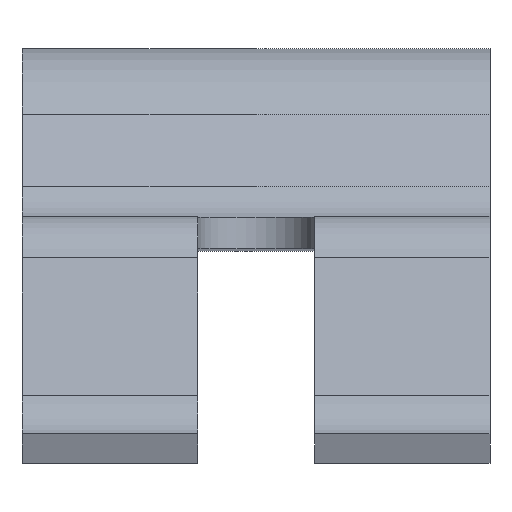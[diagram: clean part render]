
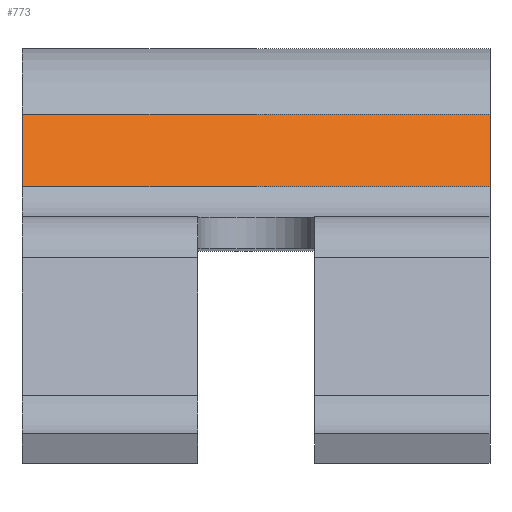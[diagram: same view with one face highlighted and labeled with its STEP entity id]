
A CAD part, top view. The second image highlights one B-rep face of the part: STEP entity #773.
In plain terms, the highlighted planar face has unit normal (0, 0.433, 0.901).
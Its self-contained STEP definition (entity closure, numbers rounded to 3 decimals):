
#22 = FACE_OUTER_BOUND ( 'NONE', #870, .T. ) ;
#28 = DIRECTION ( 'NONE',  ( -1., 0., 0. ) ) ;
#47 = LINE ( 'NONE', #619, #863 ) ;
#50 = CARTESIAN_POINT ( 'NONE',  ( 4., 0.283, -8.548 ) ) ;
#96 = EDGE_CURVE ( 'NONE', #513, #233, #47, .T. ) ;
#97 = CARTESIAN_POINT ( 'NONE',  ( 4., 0.283, -8.548 ) ) ;
#166 = EDGE_CURVE ( 'NONE', #513, #726, #242, .T. ) ;
#171 = ORIENTED_EDGE ( 'NONE', *, *, #888, .F. ) ;
#202 = CARTESIAN_POINT ( 'NONE',  ( 0., 0.283, -8.548 ) ) ;
#233 = VERTEX_POINT ( 'NONE', #411 ) ;
#242 = LINE ( 'NONE', #97, #812 ) ;
#275 = ORIENTED_EDGE ( 'NONE', *, *, #602, .T. ) ;
#307 = DIRECTION ( 'NONE',  ( -1., 0., 0. ) ) ;
#363 = CARTESIAN_POINT ( 'NONE',  ( 0., 0.283, -8.548 ) ) ;
#364 = DIRECTION ( 'NONE',  ( 0., -0.433, -0.901 ) ) ;
#411 = CARTESIAN_POINT ( 'NONE',  ( 0., 0.903, -8.846 ) ) ;
#416 = ORIENTED_EDGE ( 'NONE', *, *, #166, .F. ) ;
#432 = DIRECTION ( 'NONE',  ( 0., -0.901, 0.433 ) ) ;
#507 = LINE ( 'NONE', #824, #544 ) ;
#513 = VERTEX_POINT ( 'NONE', #710 ) ;
#530 = ORIENTED_EDGE ( 'NONE', *, *, #96, .T. ) ;
#544 = VECTOR ( 'NONE', #307, 1000. ) ;
#602 = EDGE_CURVE ( 'NONE', #233, #761, #607, .T. ) ;
#607 = LINE ( 'NONE', #363, #751 ) ;
#619 = CARTESIAN_POINT ( 'NONE',  ( 4., 0.903, -8.846 ) ) ;
#710 = CARTESIAN_POINT ( 'NONE',  ( 4., 0.903, -8.846 ) ) ;
#726 = VERTEX_POINT ( 'NONE', #50 ) ;
#735 = PLANE ( 'NONE',  #931 ) ;
#751 = VECTOR ( 'NONE', #874, 1000. ) ;
#761 = VERTEX_POINT ( 'NONE', #202 ) ;
#773 = ADVANCED_FACE ( 'NONE', ( #22 ), #735, .F. ) ;
#811 = CARTESIAN_POINT ( 'NONE',  ( 4., 0.283, -8.548 ) ) ;
#812 = VECTOR ( 'NONE', #432, 1000. ) ;
#824 = CARTESIAN_POINT ( 'NONE',  ( 4., 0.283, -8.548 ) ) ;
#863 = VECTOR ( 'NONE', #28, 1000. ) ;
#870 = EDGE_LOOP ( 'NONE', ( #275, #171, #416, #530 ) ) ;
#874 = DIRECTION ( 'NONE',  ( 0., -0.901, 0.433 ) ) ;
#886 = DIRECTION ( 'NONE',  ( 0., 0.901, -0.433 ) ) ;
#888 = EDGE_CURVE ( 'NONE', #726, #761, #507, .T. ) ;
#931 = AXIS2_PLACEMENT_3D ( 'NONE', #811, #364, #886 ) ;
